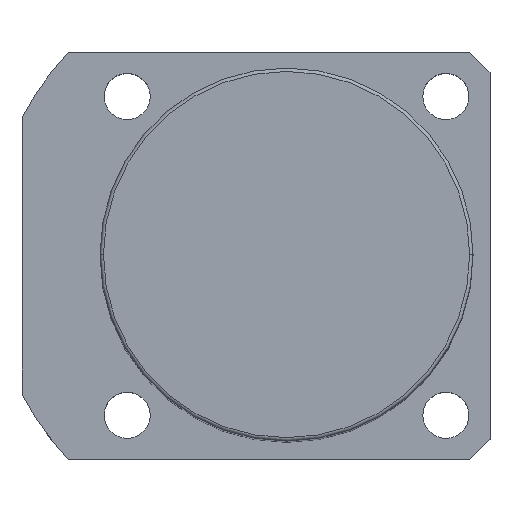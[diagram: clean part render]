
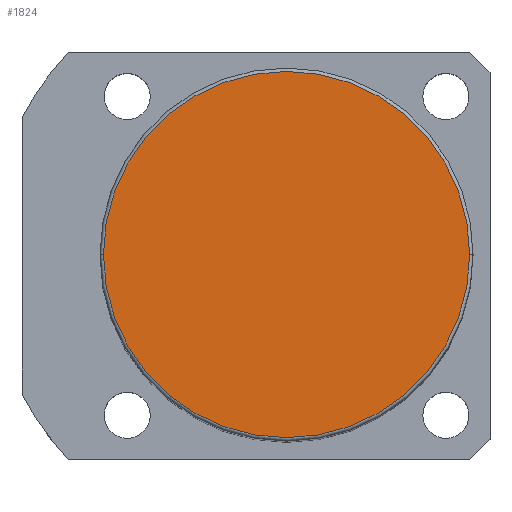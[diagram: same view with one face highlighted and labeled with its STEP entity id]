
A CAD part, top view. The second image highlights one B-rep face of the part: STEP entity #1824.
In plain terms, the highlighted planar face has unit normal (0, 0, 1).
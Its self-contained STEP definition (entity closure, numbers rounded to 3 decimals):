
#392 = EDGE_LOOP ( 'NONE', ( #839, #1700 ) ) ;
#437 = CARTESIAN_POINT ( 'NONE',  ( 27., 0., 121. ) ) ;
#479 = AXIS2_PLACEMENT_3D ( 'NONE', #1404, #1710, #1257 ) ;
#640 = EDGE_CURVE ( 'NONE', #1666, #1891, #1686, .T. ) ;
#688 = CIRCLE ( 'NONE', #1766, 27. ) ;
#737 = DIRECTION ( 'NONE',  ( 0., 0., 1. ) ) ;
#839 = ORIENTED_EDGE ( 'NONE', *, *, #849, .T. ) ;
#849 = EDGE_CURVE ( 'NONE', #1891, #1666, #688, .T. ) ;
#865 = DIRECTION ( 'NONE',  ( 1., 0., 0. ) ) ;
#919 = FACE_OUTER_BOUND ( 'NONE', #392, .T. ) ;
#969 = CARTESIAN_POINT ( 'NONE',  ( 0., 0., 121. ) ) ;
#1257 = DIRECTION ( 'NONE',  ( 1., 0., 0. ) ) ;
#1265 = AXIS2_PLACEMENT_3D ( 'NONE', #1802, #1485, #865 ) ;
#1404 = CARTESIAN_POINT ( 'NONE',  ( 0., 0., 121. ) ) ;
#1485 = DIRECTION ( 'NONE',  ( 0., 0., 1. ) ) ;
#1620 = DIRECTION ( 'NONE',  ( 1., 0., 0. ) ) ;
#1666 = VERTEX_POINT ( 'NONE', #1745 ) ;
#1686 = CIRCLE ( 'NONE', #479, 27. ) ;
#1689 = PLANE ( 'NONE',  #1265 ) ;
#1700 = ORIENTED_EDGE ( 'NONE', *, *, #640, .T. ) ;
#1710 = DIRECTION ( 'NONE',  ( 0., 0., 1. ) ) ;
#1745 = CARTESIAN_POINT ( 'NONE',  ( -27., 0., 121. ) ) ;
#1766 = AXIS2_PLACEMENT_3D ( 'NONE', #969, #737, #1620 ) ;
#1802 = CARTESIAN_POINT ( 'NONE',  ( 0., 0., 121. ) ) ;
#1824 = ADVANCED_FACE ( 'NONE', ( #919 ), #1689, .T. ) ;
#1891 = VERTEX_POINT ( 'NONE', #437 ) ;
